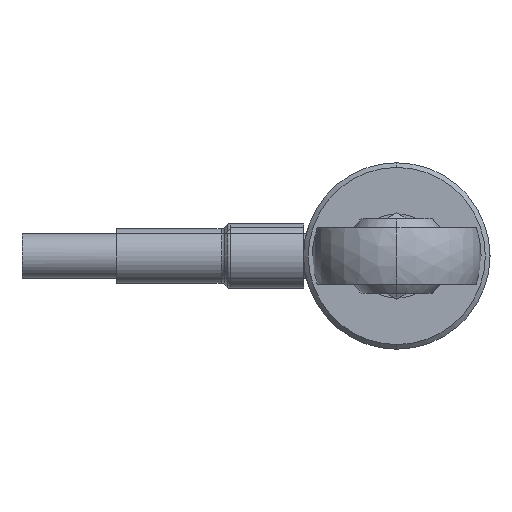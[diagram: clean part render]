
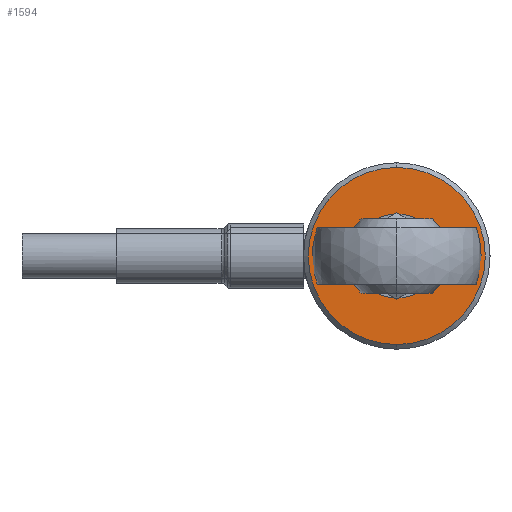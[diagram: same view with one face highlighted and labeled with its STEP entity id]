
A CAD part, left-side view. The second image highlights one B-rep face of the part: STEP entity #1594.
In plain terms, the highlighted planar face has unit normal (-1, 0, 0).
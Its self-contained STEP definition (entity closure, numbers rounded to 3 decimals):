
#5 = ORIENTED_EDGE ( 'NONE', *, *, #1478, .T. ) ;
#20 = AXIS2_PLACEMENT_3D ( 'NONE', #1291, #3588, #658 ) ;
#135 = EDGE_CURVE ( 'NONE', #1725, #2494, #1288, .T. ) ;
#194 = CIRCLE ( 'NONE', #2421, 4.5 ) ;
#241 = CARTESIAN_POINT ( 'NONE',  ( 0., 0., -4.5 ) ) ;
#400 = DIRECTION ( 'NONE',  ( -1., 0., 0. ) ) ;
#473 = DIRECTION ( 'NONE',  ( -1., 0., 0. ) ) ;
#553 = CIRCLE ( 'NONE', #3296, 4.5 ) ;
#658 = DIRECTION ( 'NONE',  ( 0., 0., -1. ) ) ;
#811 = FACE_BOUND ( 'NONE', #3323, .T. ) ;
#826 = CARTESIAN_POINT ( 'NONE',  ( 0., 0., 0. ) ) ;
#997 = CARTESIAN_POINT ( 'NONE',  ( 0., 0., 0. ) ) ;
#1162 = DIRECTION ( 'NONE',  ( 0., 0., -1. ) ) ;
#1236 = ORIENTED_EDGE ( 'NONE', *, *, #135, .T. ) ;
#1264 = FACE_OUTER_BOUND ( 'NONE', #1713, .T. ) ;
#1288 = CIRCLE ( 'NONE', #3769, 9.45 ) ;
#1291 = CARTESIAN_POINT ( 'NONE',  ( 0., 0., 0. ) ) ;
#1341 = DIRECTION ( 'NONE',  ( 0., 0., -1. ) ) ;
#1478 = EDGE_CURVE ( 'NONE', #2494, #1725, #3885, .T. ) ;
#1551 = AXIS2_PLACEMENT_3D ( 'NONE', #3800, #3842, #3787 ) ;
#1594 = ADVANCED_FACE ( 'NONE', ( #811, #1264 ), #3235, .F. ) ;
#1713 = EDGE_LOOP ( 'NONE', ( #5, #1236 ) ) ;
#1725 = VERTEX_POINT ( 'NONE', #2452 ) ;
#1806 = CARTESIAN_POINT ( 'NONE',  ( 0., 0., 4.5 ) ) ;
#2108 = DIRECTION ( 'NONE',  ( 0., 0., -1. ) ) ;
#2173 = EDGE_CURVE ( 'NONE', #3348, #3446, #553, .T. ) ;
#2315 = EDGE_CURVE ( 'NONE', #3446, #3348, #194, .T. ) ;
#2421 = AXIS2_PLACEMENT_3D ( 'NONE', #4117, #2849, #1162 ) ;
#2452 = CARTESIAN_POINT ( 'NONE',  ( 0., 0., 9.45 ) ) ;
#2494 = VERTEX_POINT ( 'NONE', #3854 ) ;
#2849 = DIRECTION ( 'NONE',  ( -1., 0., 0. ) ) ;
#3155 = ORIENTED_EDGE ( 'NONE', *, *, #2173, .F. ) ;
#3235 = PLANE ( 'NONE',  #20 ) ;
#3296 = AXIS2_PLACEMENT_3D ( 'NONE', #826, #473, #2108 ) ;
#3323 = EDGE_LOOP ( 'NONE', ( #3966, #3155 ) ) ;
#3348 = VERTEX_POINT ( 'NONE', #1806 ) ;
#3446 = VERTEX_POINT ( 'NONE', #241 ) ;
#3588 = DIRECTION ( 'NONE',  ( 1., 0., 0. ) ) ;
#3769 = AXIS2_PLACEMENT_3D ( 'NONE', #997, #400, #1341 ) ;
#3787 = DIRECTION ( 'NONE',  ( 0., 0., -1. ) ) ;
#3800 = CARTESIAN_POINT ( 'NONE',  ( 0., 0., 0. ) ) ;
#3842 = DIRECTION ( 'NONE',  ( -1., 0., 0. ) ) ;
#3854 = CARTESIAN_POINT ( 'NONE',  ( 0., 0., -9.45 ) ) ;
#3885 = CIRCLE ( 'NONE', #1551, 9.45 ) ;
#3966 = ORIENTED_EDGE ( 'NONE', *, *, #2315, .F. ) ;
#4117 = CARTESIAN_POINT ( 'NONE',  ( 0., 0., 0. ) ) ;
